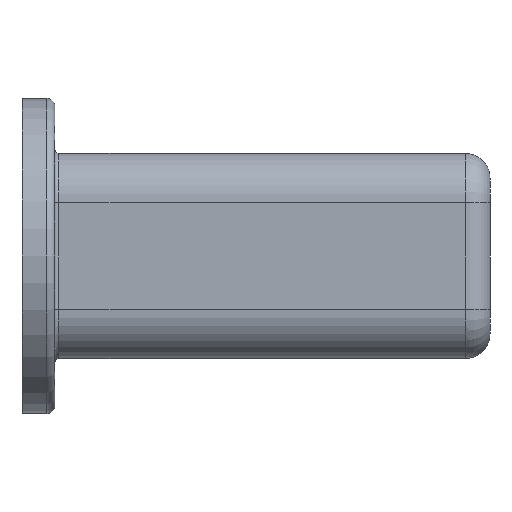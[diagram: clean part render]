
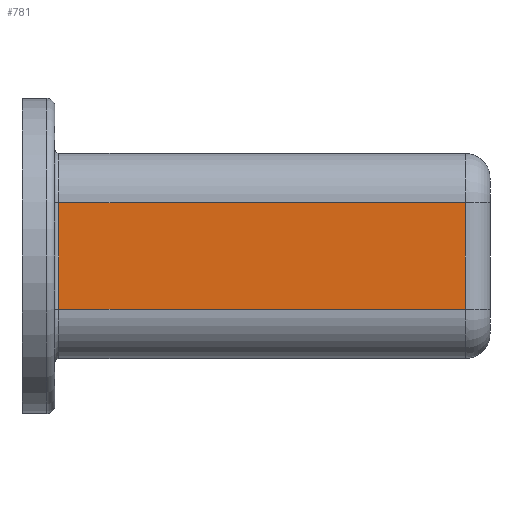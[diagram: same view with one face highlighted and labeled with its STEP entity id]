
A CAD part, left-side view. The second image highlights one B-rep face of the part: STEP entity #781.
In plain terms, the highlighted planar face has unit normal (-1, 0, 0).
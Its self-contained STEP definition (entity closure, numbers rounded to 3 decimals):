
#10 = DIRECTION ( 'NONE',  ( 0., 1., 0. ) ) ;
#33 = EDGE_LOOP ( 'NONE', ( #1301, #1306, #1204, #449 ) ) ;
#63 = LINE ( 'NONE', #592, #1172 ) ;
#135 = CARTESIAN_POINT ( 'NONE',  ( -14.5, -28.5, 0. ) ) ;
#248 = CARTESIAN_POINT ( 'NONE',  ( -14.5, -27., -3.25 ) ) ;
#275 = LINE ( 'NONE', #1000, #1761 ) ;
#280 = PLANE ( 'NONE',  #758 ) ;
#373 = VERTEX_POINT ( 'NONE', #248 ) ;
#374 = VECTOR ( 'NONE', #1376, 1000. ) ;
#449 = ORIENTED_EDGE ( 'NONE', *, *, #594, .T. ) ;
#452 = VERTEX_POINT ( 'NONE', #1668 ) ;
#491 = VERTEX_POINT ( 'NONE', #1268 ) ;
#549 = LINE ( 'NONE', #1072, #374 ) ;
#592 = CARTESIAN_POINT ( 'NONE',  ( -14.5, -28.5, -3.25 ) ) ;
#594 = EDGE_CURVE ( 'NONE', #491, #1213, #1019, .T. ) ;
#673 = DIRECTION ( 'NONE',  ( 0., 0., 1. ) ) ;
#683 = DIRECTION ( 'NONE',  ( -1., 0., 0. ) ) ;
#745 = DIRECTION ( 'NONE',  ( 0., 1., 0. ) ) ;
#758 = AXIS2_PLACEMENT_3D ( 'NONE', #135, #683, #673 ) ;
#781 = ADVANCED_FACE ( 'NONE', ( #1662 ), #280, .T. ) ;
#872 = VECTOR ( 'NONE', #1318, 1000. ) ;
#889 = CARTESIAN_POINT ( 'NONE',  ( -14.5, -2.25, 0. ) ) ;
#939 = EDGE_CURVE ( 'NONE', #373, #452, #549, .T. ) ;
#1000 = CARTESIAN_POINT ( 'NONE',  ( -14.5, -28.5, 3.25 ) ) ;
#1019 = LINE ( 'NONE', #889, #872 ) ;
#1072 = CARTESIAN_POINT ( 'NONE',  ( -14.5, -27., 0. ) ) ;
#1172 = VECTOR ( 'NONE', #745, 1000. ) ;
#1177 = CARTESIAN_POINT ( 'NONE',  ( -14.5, -2.25, -3.25 ) ) ;
#1204 = ORIENTED_EDGE ( 'NONE', *, *, #1752, .T. ) ;
#1213 = VERTEX_POINT ( 'NONE', #1177 ) ;
#1268 = CARTESIAN_POINT ( 'NONE',  ( -14.5, -2.25, 3.25 ) ) ;
#1301 = ORIENTED_EDGE ( 'NONE', *, *, #1546, .F. ) ;
#1306 = ORIENTED_EDGE ( 'NONE', *, *, #939, .T. ) ;
#1318 = DIRECTION ( 'NONE',  ( 0., 0., -1. ) ) ;
#1376 = DIRECTION ( 'NONE',  ( 0., 0., 1. ) ) ;
#1546 = EDGE_CURVE ( 'NONE', #373, #1213, #63, .T. ) ;
#1662 = FACE_OUTER_BOUND ( 'NONE', #33, .T. ) ;
#1668 = CARTESIAN_POINT ( 'NONE',  ( -14.5, -27., 3.25 ) ) ;
#1752 = EDGE_CURVE ( 'NONE', #452, #491, #275, .T. ) ;
#1761 = VECTOR ( 'NONE', #10, 1000. ) ;
